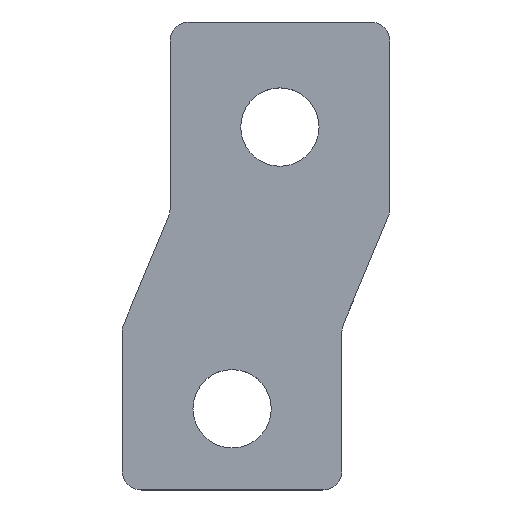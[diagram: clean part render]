
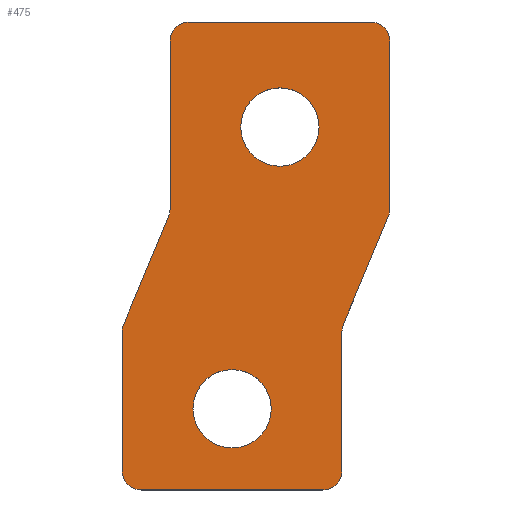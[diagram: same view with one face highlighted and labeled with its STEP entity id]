
A CAD part, top view. The second image highlights one B-rep face of the part: STEP entity #475.
In plain terms, the highlighted planar face has unit normal (0, 0, 1).
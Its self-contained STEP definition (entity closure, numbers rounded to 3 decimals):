
#92=CARTESIAN_POINT('',(0.,0.,4.));
#93=DIRECTION('',(0.,0.,-1.));
#94=DIRECTION('',(1.,0.,0.));
#95=AXIS2_PLACEMENT_3D('',#92,#93,#94);
#97=CARTESIAN_POINT('',(0.,0.,4.));
#98=DIRECTION('',(0.,0.,-1.));
#99=DIRECTION('',(-1.,0.,0.));
#100=AXIS2_PLACEMENT_3D('',#97,#98,#99);
#102=CARTESIAN_POINT('',(5.,29.5,4.));
#103=DIRECTION('',(0.,0.,-1.));
#104=DIRECTION('',(1.,0.,0.));
#105=AXIS2_PLACEMENT_3D('',#102,#103,#104);
#107=CARTESIAN_POINT('',(5.,29.5,4.));
#108=DIRECTION('',(0.,0.,-1.));
#109=DIRECTION('',(-1.,0.,0.));
#110=AXIS2_PLACEMENT_3D('',#107,#108,#109);
#112=CARTESIAN_POINT('',(14.5,20.9,4.));
#113=DIRECTION('',(0.,0.,1.));
#114=DIRECTION('',(0.923,-0.385,0.));
#115=AXIS2_PLACEMENT_3D('',#112,#113,#114);
#117=DIRECTION('',(0.385,0.923,0.));
#118=VECTOR('',#117,12.2);
#119=CARTESIAN_POINT('',(11.654,8.869,4.));
#120=LINE('',#119,#118);
#121=DIRECTION('',(0.,1.,0.));
#122=VECTOR('',#121,14.6);
#123=CARTESIAN_POINT('',(11.5,-6.5,4.));
#124=LINE('',#123,#122);
#125=CARTESIAN_POINT('',(9.5,-6.5,4.));
#126=DIRECTION('',(0.,0.,1.));
#127=DIRECTION('',(0.,-1.,0.));
#128=AXIS2_PLACEMENT_3D('',#125,#126,#127);
#130=DIRECTION('',(1.,0.,0.));
#131=VECTOR('',#130,19.);
#132=CARTESIAN_POINT('',(-9.5,-8.5,4.));
#133=LINE('',#132,#131);
#134=CARTESIAN_POINT('',(-9.5,-6.5,4.));
#135=DIRECTION('',(0.,0.,1.));
#136=DIRECTION('',(-1.,0.,0.));
#137=AXIS2_PLACEMENT_3D('',#134,#135,#136);
#139=DIRECTION('',(0.,-1.,0.));
#140=VECTOR('',#139,14.6);
#141=CARTESIAN_POINT('',(-11.5,8.1,4.));
#142=LINE('',#141,#140);
#143=CARTESIAN_POINT('',(-9.5,8.1,4.));
#144=DIRECTION('',(0.,0.,1.));
#145=DIRECTION('',(-0.923,0.385,0.));
#146=AXIS2_PLACEMENT_3D('',#143,#144,#145);
#148=DIRECTION('',(-0.385,-0.923,0.));
#149=VECTOR('',#148,12.2);
#150=CARTESIAN_POINT('',(-6.654,20.131,4.));
#151=LINE('',#150,#149);
#152=DIRECTION('',(0.,-1.,0.));
#153=VECTOR('',#152,17.6);
#154=CARTESIAN_POINT('',(-6.5,38.5,4.));
#155=LINE('',#154,#153);
#156=CARTESIAN_POINT('',(-4.5,38.5,4.));
#157=DIRECTION('',(0.,0.,1.));
#158=DIRECTION('',(0.,1.,0.));
#159=AXIS2_PLACEMENT_3D('',#156,#157,#158);
#161=DIRECTION('',(-1.,0.,0.));
#162=VECTOR('',#161,19.);
#163=CARTESIAN_POINT('',(14.5,40.5,4.));
#164=LINE('',#163,#162);
#165=CARTESIAN_POINT('',(14.5,38.5,4.));
#166=DIRECTION('',(0.,0.,1.));
#167=DIRECTION('',(1.,0.,0.));
#168=AXIS2_PLACEMENT_3D('',#165,#166,#167);
#170=DIRECTION('',(0.,1.,0.));
#171=VECTOR('',#170,17.6);
#172=CARTESIAN_POINT('',(16.5,20.9,4.));
#173=LINE('',#172,#171);
#195=CARTESIAN_POINT('',(13.5,8.1,4.));
#196=DIRECTION('',(0.,0.,-1.));
#197=DIRECTION('',(-1.,0.,0.));
#198=AXIS2_PLACEMENT_3D('',#195,#196,#197);
#237=CARTESIAN_POINT('',(-8.5,20.9,4.));
#238=DIRECTION('',(0.,0.,-1.));
#239=DIRECTION('',(1.,0.,0.));
#240=AXIS2_PLACEMENT_3D('',#237,#238,#239);
#274=CARTESIAN_POINT('',(4.1,0.,4.));
#275=CARTESIAN_POINT('',(-4.1,0.,4.));
#276=VERTEX_POINT('',#274);
#277=VERTEX_POINT('',#275);
#278=CARTESIAN_POINT('',(9.1,29.5,4.));
#279=CARTESIAN_POINT('',(0.9,29.5,4.));
#280=VERTEX_POINT('',#278);
#281=VERTEX_POINT('',#279);
#283=CARTESIAN_POINT('',(11.654,8.869,4.));
#285=VERTEX_POINT('',#283);
#287=CARTESIAN_POINT('',(11.5,8.1,4.));
#289=VERTEX_POINT('',#287);
#291=CARTESIAN_POINT('',(-6.654,20.131,4.));
#293=VERTEX_POINT('',#291);
#295=CARTESIAN_POINT('',(-6.5,20.9,4.));
#297=VERTEX_POINT('',#295);
#302=CARTESIAN_POINT('',(16.346,20.131,4.));
#303=VERTEX_POINT('',#302);
#304=CARTESIAN_POINT('',(16.5,20.9,4.));
#305=VERTEX_POINT('',#304);
#310=CARTESIAN_POINT('',(-11.346,8.869,4.));
#311=VERTEX_POINT('',#310);
#312=CARTESIAN_POINT('',(-11.5,8.1,4.));
#313=VERTEX_POINT('',#312);
#316=CARTESIAN_POINT('',(16.5,38.5,4.));
#317=VERTEX_POINT('',#316);
#320=CARTESIAN_POINT('',(-11.5,-6.5,4.));
#321=VERTEX_POINT('',#320);
#326=CARTESIAN_POINT('',(9.5,-8.5,4.));
#327=VERTEX_POINT('',#326);
#328=CARTESIAN_POINT('',(11.5,-6.5,4.));
#329=VERTEX_POINT('',#328);
#332=CARTESIAN_POINT('',(-9.5,-8.5,4.));
#333=VERTEX_POINT('',#332);
#336=CARTESIAN_POINT('',(14.5,40.5,4.));
#337=VERTEX_POINT('',#336);
#342=CARTESIAN_POINT('',(-4.5,40.5,4.));
#343=VERTEX_POINT('',#342);
#344=CARTESIAN_POINT('',(-6.5,38.5,4.));
#345=VERTEX_POINT('',#344);
#426=CARTESIAN_POINT('',(0.,0.,4.));
#427=DIRECTION('',(0.,0.,1.));
#428=DIRECTION('',(1.,0.,0.));
#429=AXIS2_PLACEMENT_3D('',#426,#427,#428);
#430=PLANE('',#429);
#432=ORIENTED_EDGE('',*,*,#431,.F.);
#434=ORIENTED_EDGE('',*,*,#433,.F.);
#436=ORIENTED_EDGE('',*,*,#435,.F.);
#438=ORIENTED_EDGE('',*,*,#437,.F.);
#440=ORIENTED_EDGE('',*,*,#439,.F.);
#442=ORIENTED_EDGE('',*,*,#441,.F.);
#444=ORIENTED_EDGE('',*,*,#443,.F.);
#446=ORIENTED_EDGE('',*,*,#445,.F.);
#448=ORIENTED_EDGE('',*,*,#447,.F.);
#450=ORIENTED_EDGE('',*,*,#449,.F.);
#452=ORIENTED_EDGE('',*,*,#451,.F.);
#454=ORIENTED_EDGE('',*,*,#453,.F.);
#456=ORIENTED_EDGE('',*,*,#455,.F.);
#458=ORIENTED_EDGE('',*,*,#457,.F.);
#460=ORIENTED_EDGE('',*,*,#459,.F.);
#462=ORIENTED_EDGE('',*,*,#461,.F.);
#463=EDGE_LOOP('',(#432,#434,#436,#438,#440,#442,#444,#446,#448,#450,#452,#454,
#456,#458,#460,#462));
#464=FACE_OUTER_BOUND('',#463,.F.);
#465=ORIENTED_EDGE('',*,*,#406,.F.);
#466=ORIENTED_EDGE('',*,*,#420,.F.);
#467=EDGE_LOOP('',(#465,#466));
#468=FACE_BOUND('',#467,.F.);
#470=ORIENTED_EDGE('',*,*,#469,.F.);
#472=ORIENTED_EDGE('',*,*,#471,.F.);
#473=EDGE_LOOP('',(#470,#472));
#474=FACE_BOUND('',#473,.F.);
#475=ADVANCED_FACE('',(#464,#468,#474),#430,.T.);
#96=CIRCLE('',#95,4.1);
#101=CIRCLE('',#100,4.1);
#106=CIRCLE('',#105,4.1);
#111=CIRCLE('',#110,4.1);
#116=CIRCLE('',#115,2.);
#129=CIRCLE('',#128,2.);
#138=CIRCLE('',#137,2.);
#147=CIRCLE('',#146,2.);
#160=CIRCLE('',#159,2.);
#169=CIRCLE('',#168,2.);
#199=CIRCLE('',#198,2.);
#241=CIRCLE('',#240,2.);
#406=EDGE_CURVE('',#276,#277,#96,.T.);
#420=EDGE_CURVE('',#277,#276,#101,.T.);
#431=EDGE_CURVE('',#303,#305,#116,.T.);
#433=EDGE_CURVE('',#285,#303,#120,.T.);
#435=EDGE_CURVE('',#289,#285,#199,.T.);
#437=EDGE_CURVE('',#329,#289,#124,.T.);
#439=EDGE_CURVE('',#327,#329,#129,.T.);
#441=EDGE_CURVE('',#333,#327,#133,.T.);
#443=EDGE_CURVE('',#321,#333,#138,.T.);
#445=EDGE_CURVE('',#313,#321,#142,.T.);
#447=EDGE_CURVE('',#311,#313,#147,.T.);
#449=EDGE_CURVE('',#293,#311,#151,.T.);
#451=EDGE_CURVE('',#297,#293,#241,.T.);
#453=EDGE_CURVE('',#345,#297,#155,.T.);
#455=EDGE_CURVE('',#343,#345,#160,.T.);
#457=EDGE_CURVE('',#337,#343,#164,.T.);
#459=EDGE_CURVE('',#317,#337,#169,.T.);
#461=EDGE_CURVE('',#305,#317,#173,.T.);
#469=EDGE_CURVE('',#280,#281,#106,.T.);
#471=EDGE_CURVE('',#281,#280,#111,.T.);
